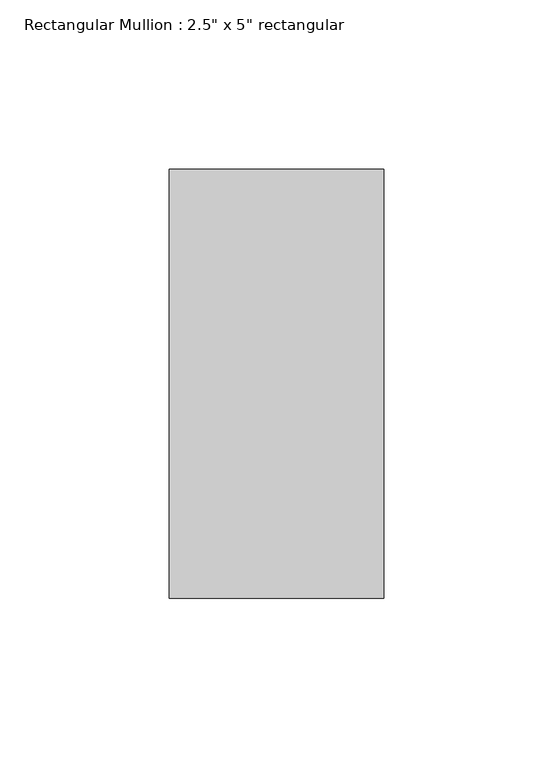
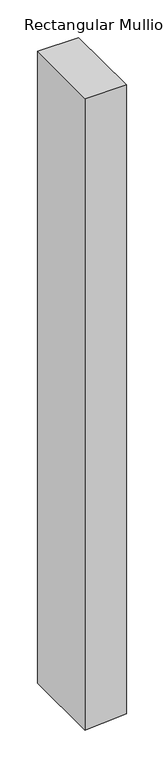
"""IFC4 building model written with IfcOpenShell, lengths in millimetres: member geometry."""

from ifc_helpers import new_model, si_unit, point, frame, frame_2d, origin, place, context, project, spatial, polyline, circle_curve, trimmed, segment, composite_curve, outline, extrude, source, transform, mapped, element, save


def member_e05e2410(model_context):
    return source(origin(), model_context, "Body", "SweptSolid", [
        extrude(outline(composite_curve([segment(polyline([(0.0, 31.75), (0.0, -31.75), (-1027.2913367, -31.75)]), True, "CONTINUOUS"), segment(trimmed(circle_curve(frame_2d((2862.0357141, -304.8)), 3898.9), [point((-1027.2913367, -31.75))], [point((-1025.3119601, -4.8845622))], False, "CARTESIAN"), True, "CONTINUOUS"), segment(trimmed(circle_curve(frame_2d((2862.0357141, -304.8)), 3898.9), [point((-1025.3119601, -4.8845622))], [point((-1022.3117611, 31.75))], False, "CARTESIAN"), True, "CONTINUOUS"), segment(polyline([(-1022.3117611, 31.75), (0.0, 31.75)]), True, "CONTINUOUS")], self_intersect=False)), frame((0.0, -63.5, 0.0), z_axis=(0.0, 1.0, 0.0), x_axis=(0.0, 0.0, 1.0)), (0.0, 0.0, 1.0), 127.0),
    ])


if __name__ == "__main__":
    model = new_model("IFC4")
    model_context = context("Model", 3, world=origin())
    ifc_project = project(units=[si_unit("LENGTHUNIT", "METRE", prefix="MILLI")], contexts=[model_context])
    site = spatial("IfcSite", under=ifc_project)
    building = spatial("IfcBuilding", under=site)
    placement = place(None, origin())
    member_shape = member_e05e2410(model_context)
    element("IfcMember", 1, ObjectType="Rectangular Mullion : 2.5\" x 5\" rectangular", at=placement, inside=building, context=model_context, shape_type="MappedRepresentation", body=[
        mapped(member_shape, transform((0.0, 0.0, 0.0), x_axis=(1.0, 0.0, 0.0), y_axis=(0.0, 1.0, 0.0), z_axis=(0.0, 0.0, 1.0))),
    ])
    save(model, "model.ifc")
